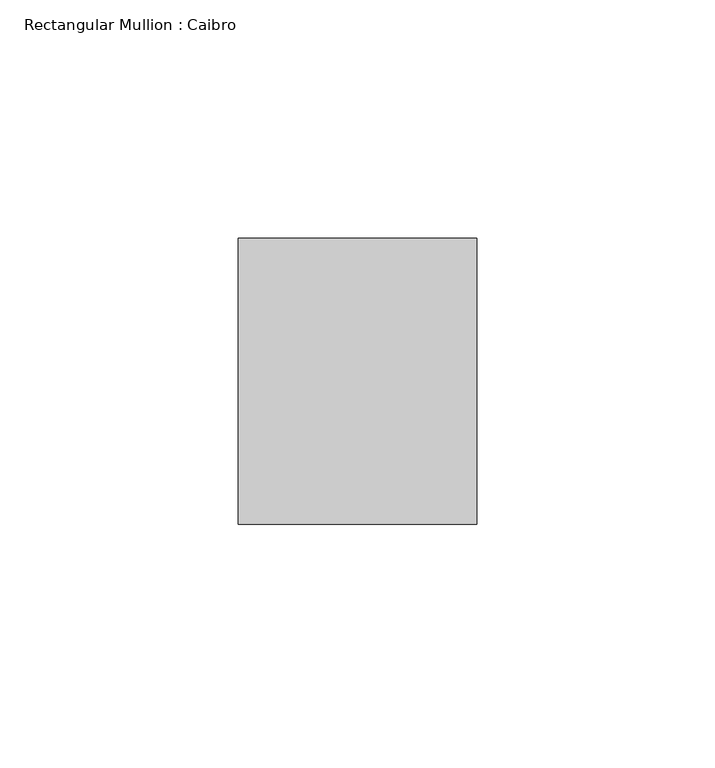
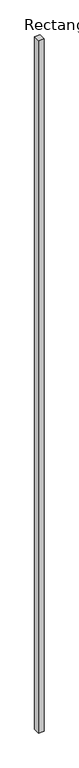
"""IFC4 building model written with IfcOpenShell, lengths in millimetres: member geometry, Rectangular Mullion : Caibro."""

from ifc_helpers import new_model, si_unit, frame, origin, place, context, project, spatial, polyline, outline, extrude, source, transform, mapped, element, save


def rectangular_mullion_caibro_3a75e286(model_context):
    return source(origin(), model_context, "Body", "SweptSolid", [
        extrude(outline(polyline([(0.0, -60.0), (-50.0, -60.0), (-50.0, 0.0), (0.0, 0.0), (0.0, -60.0)])), frame((0.0, 0.0, -6651.7961657), z_axis=(0.0, 0.0, 1.0), x_axis=(1.0, 0.0, 0.0)), (0.0, 0.0, 1.0), 6651.7961657),
    ])


if __name__ == "__main__":
    model = new_model("IFC4")
    model_context = context("Model", 3, world=origin())
    ifc_project = project(units=[si_unit("LENGTHUNIT", "METRE", prefix="MILLI")], contexts=[model_context])
    site = spatial("IfcSite", under=ifc_project)
    building = spatial("IfcBuilding", under=site)
    placement = place(None, origin())
    rectangular_mullion_caibro_shape = rectangular_mullion_caibro_3a75e286(model_context)
    element("IfcMember", 1, ObjectType="Rectangular Mullion : Caibro", at=placement, inside=building, context=model_context, shape_type="MappedRepresentation", body=[
        mapped(rectangular_mullion_caibro_shape, transform((0.0, 0.0, 0.0), x_axis=(1.0, 0.0, 0.0), y_axis=(0.0, 1.0, 0.0), z_axis=(0.0, 0.0, 1.0))),
    ])
    save(model, "model.ifc")
